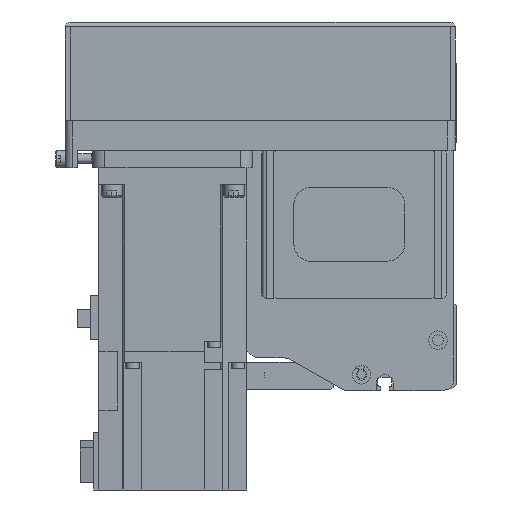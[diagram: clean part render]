
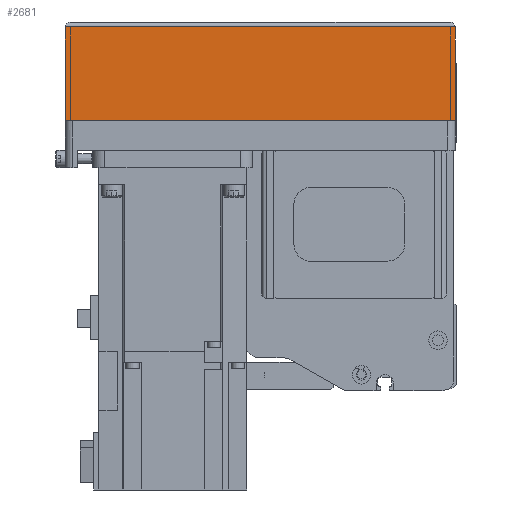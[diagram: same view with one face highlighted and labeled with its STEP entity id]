
A CAD part, left-side view. The second image highlights one B-rep face of the part: STEP entity #2681.
In plain terms, the highlighted planar face has unit normal (-1, 0, 0) as drawn and (0, 1, 0) by its records, which use the part's own axes.
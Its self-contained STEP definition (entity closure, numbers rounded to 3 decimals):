
#2681 = ADVANCED_FACE( '', ( #5840 ), #5841, .T. );
#5840 = FACE_OUTER_BOUND( '', #9344, .T. );
#5841 = PLANE( '', #9345 );
#9344 = EDGE_LOOP( '', ( #16966, #16967, #16968, #16969 ) );
#9345 = AXIS2_PLACEMENT_3D( '', #16970, #16971, #16972 );
#16966 = ORIENTED_EDGE( '', *, *, #22630, .F. );
#16967 = ORIENTED_EDGE( '', *, *, #21124, .F. );
#16968 = ORIENTED_EDGE( '', *, *, #22785, .T. );
#16969 = ORIENTED_EDGE( '', *, *, #21618, .T. );
#16970 = CARTESIAN_POINT( '', ( -158., 39., -50. ) );
#16971 = DIRECTION( '', ( 0., 1., 0. ) );
#16972 = DIRECTION( '', ( 0., 0., 1. ) );
#21124 = EDGE_CURVE( '', #25747, #25749, #25750, .T. );
#21618 = EDGE_CURVE( '', #26530, #26528, #26531, .T. );
#22630 = EDGE_CURVE( '', #25749, #26528, #27938, .T. );
#22785 = EDGE_CURVE( '', #25747, #26530, #28124, .T. );
#25747 = VERTEX_POINT( '', #32322 );
#25749 = VERTEX_POINT( '', #32324 );
#25750 = LINE( '', #32325, #32326 );
#26528 = VERTEX_POINT( '', #33642 );
#26530 = VERTEX_POINT( '', #33645 );
#26531 = LINE( '', #33646, #33647 );
#27938 = LINE( '', #35865, #35866 );
#28124 = LINE( '', #36127, #36128 );
#32322 = CARTESIAN_POINT( '', ( -158., 39., -50. ) );
#32324 = CARTESIAN_POINT( '', ( 0., 39., -50. ) );
#32325 = CARTESIAN_POINT( '', ( -158., 39., -50. ) );
#32326 = VECTOR( '', #38796, 1000. );
#33642 = CARTESIAN_POINT( '', ( 0., 39., -12.1 ) );
#33645 = CARTESIAN_POINT( '', ( -158., 39., -12.1 ) );
#33646 = CARTESIAN_POINT( '', ( -158., 39., -12.1 ) );
#33647 = VECTOR( '', #39436, 1000. );
#35865 = CARTESIAN_POINT( '', ( 0., 39., -50. ) );
#35866 = VECTOR( '', #40582, 1000. );
#36127 = CARTESIAN_POINT( '', ( -158., 39., -50. ) );
#36128 = VECTOR( '', #40718, 1000. );
#38796 = DIRECTION( '', ( 1., 0., 0. ) );
#39436 = DIRECTION( '', ( 1., 0., 0. ) );
#40582 = DIRECTION( '', ( 0., 0., 1. ) );
#40718 = DIRECTION( '', ( 0., 0., 1. ) );
